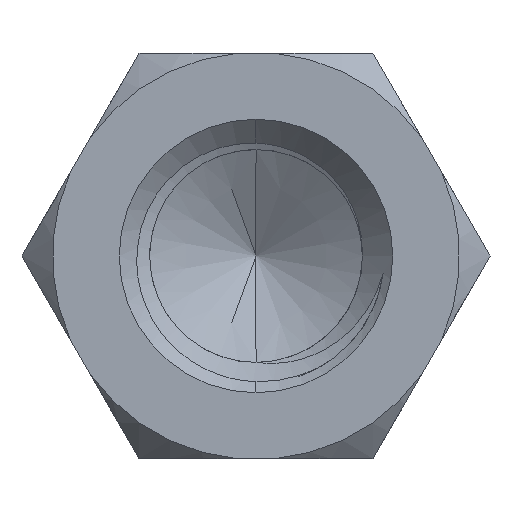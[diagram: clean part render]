
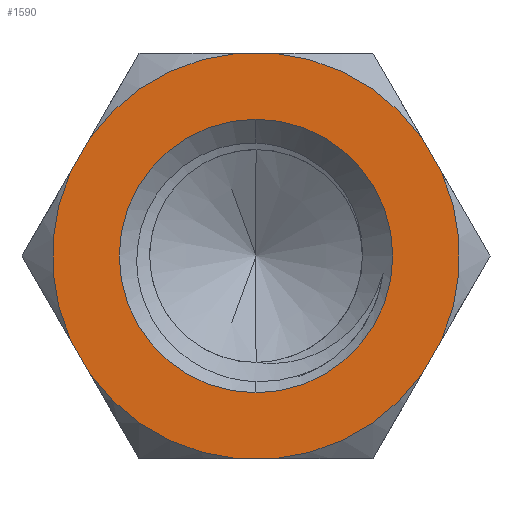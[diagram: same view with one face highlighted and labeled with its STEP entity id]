
A CAD part, front view. The second image highlights one B-rep face of the part: STEP entity #1590.
In plain terms, the highlighted planar face has unit normal (0, -1, 0).
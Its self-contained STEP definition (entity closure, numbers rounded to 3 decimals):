
#14 = CARTESIAN_POINT ( 'NONE',  ( 0., 0., 0. ) ) ;
#25 = ORIENTED_EDGE ( 'NONE', *, *, #1720, .F. ) ;
#66 = DIRECTION ( 'NONE',  ( 0., -1., 0. ) ) ;
#111 = VERTEX_POINT ( 'NONE', #2467 ) ;
#168 = CIRCLE ( 'NONE', #367, 4.019 ) ;
#190 = CIRCLE ( 'NONE', #2865, 4.019 ) ;
#215 = EDGE_CURVE ( 'NONE', #750, #2093, #909, .T. ) ;
#240 = CARTESIAN_POINT ( 'NONE',  ( -3.27, 0., 2.336 ) ) ;
#253 = DIRECTION ( 'NONE',  ( 0., 0., 1. ) ) ;
#271 = FACE_BOUND ( 'NONE', #2477, .T. ) ;
#284 = VECTOR ( 'NONE', #1561, 1000. ) ;
#336 = CARTESIAN_POINT ( 'NONE',  ( -3.658, 0., 1.664 ) ) ;
#351 = DIRECTION ( 'NONE',  ( 0.5, 0., 0.866 ) ) ;
#367 = AXIS2_PLACEMENT_3D ( 'NONE', #2305, #1887, #2550 ) ;
#384 = CIRCLE ( 'NONE', #1348, 4.019 ) ;
#462 = EDGE_CURVE ( 'NONE', #1557, #755, #1197, .T. ) ;
#507 = ORIENTED_EDGE ( 'NONE', *, *, #528, .T. ) ;
#528 = EDGE_CURVE ( 'NONE', #755, #1557, #2524, .T. ) ;
#547 = EDGE_CURVE ( 'NONE', #1631, #111, #2343, .T. ) ;
#584 = VERTEX_POINT ( 'NONE', #1166 ) ;
#605 = VECTOR ( 'NONE', #1368, 1000. ) ;
#608 = ORIENTED_EDGE ( 'NONE', *, *, #2392, .T. ) ;
#663 = LINE ( 'NONE', #2247, #1573 ) ;
#685 = CARTESIAN_POINT ( 'NONE',  ( 0., 0., 2.7 ) ) ;
#698 = CARTESIAN_POINT ( 'NONE',  ( 0., 0., 0. ) ) ;
#750 = VERTEX_POINT ( 'NONE', #336 ) ;
#755 = VERTEX_POINT ( 'NONE', #1256 ) ;
#756 = DIRECTION ( 'NONE',  ( 0., -1., 0. ) ) ;
#779 = EDGE_CURVE ( 'NONE', #750, #1191, #1497, .T. ) ;
#800 = CARTESIAN_POINT ( 'NONE',  ( 2.309, 0., 4. ) ) ;
#809 = EDGE_LOOP ( 'NONE', ( #1289, #608, #1326, #827, #1628, #2811, #2063, #2746, #2352, #2966, #25, #1615 ) ) ;
#827 = ORIENTED_EDGE ( 'NONE', *, *, #215, .T. ) ;
#855 = DIRECTION ( 'NONE',  ( -0.5, 0., -0.866 ) ) ;
#879 = CARTESIAN_POINT ( 'NONE',  ( 0., 0., 0. ) ) ;
#889 = VERTEX_POINT ( 'NONE', #893 ) ;
#893 = CARTESIAN_POINT ( 'NONE',  ( 3.658, 0., -1.664 ) ) ;
#909 = CIRCLE ( 'NONE', #2129, 4.019 ) ;
#922 = CARTESIAN_POINT ( 'NONE',  ( 3.27, 0., 2.336 ) ) ;
#959 = AXIS2_PLACEMENT_3D ( 'NONE', #2589, #1420, #2804 ) ;
#990 = DIRECTION ( 'NONE',  ( 0., 0., 1. ) ) ;
#994 = CARTESIAN_POINT ( 'NONE',  ( -3.27, 0., -2.336 ) ) ;
#1047 = EDGE_CURVE ( 'NONE', #1651, #111, #384, .T. ) ;
#1119 = DIRECTION ( 'NONE',  ( 0., -1., 0. ) ) ;
#1133 = DIRECTION ( 'NONE',  ( 0., 0., 1. ) ) ;
#1135 = CARTESIAN_POINT ( 'NONE',  ( -2.309, 0., -4. ) ) ;
#1166 = CARTESIAN_POINT ( 'NONE',  ( 3.27, 0., -2.336 ) ) ;
#1184 = CIRCLE ( 'NONE', #1575, 4.019 ) ;
#1191 = VERTEX_POINT ( 'NONE', #240 ) ;
#1197 = CIRCLE ( 'NONE', #959, 2.7 ) ;
#1210 = FACE_OUTER_BOUND ( 'NONE', #809, .T. ) ;
#1256 = CARTESIAN_POINT ( 'NONE',  ( 0., 0., -2.7 ) ) ;
#1264 = VERTEX_POINT ( 'NONE', #1751 ) ;
#1289 = ORIENTED_EDGE ( 'NONE', *, *, #2944, .F. ) ;
#1326 = ORIENTED_EDGE ( 'NONE', *, *, #779, .F. ) ;
#1348 = AXIS2_PLACEMENT_3D ( 'NONE', #1861, #756, #253 ) ;
#1368 = DIRECTION ( 'NONE',  ( 1., 0., 0. ) ) ;
#1420 = DIRECTION ( 'NONE',  ( 0., 1., 0. ) ) ;
#1455 = EDGE_CURVE ( 'NONE', #1651, #2093, #2298, .T. ) ;
#1456 = CARTESIAN_POINT ( 'NONE',  ( 0., 0., 0. ) ) ;
#1485 = VERTEX_POINT ( 'NONE', #922 ) ;
#1486 = VECTOR ( 'NONE', #2602, 1000. ) ;
#1497 = LINE ( 'NONE', #2433, #2567 ) ;
#1508 = CARTESIAN_POINT ( 'NONE',  ( 0.388, 0., 4. ) ) ;
#1557 = VERTEX_POINT ( 'NONE', #685 ) ;
#1561 = DIRECTION ( 'NONE',  ( -0.5, 0., 0.866 ) ) ;
#1573 = VECTOR ( 'NONE', #855, 1000. ) ;
#1575 = AXIS2_PLACEMENT_3D ( 'NONE', #1456, #66, #990 ) ;
#1590 = ADVANCED_FACE ( 'NONE', ( #271, #1210 ), #2788, .F. ) ;
#1615 = ORIENTED_EDGE ( 'NONE', *, *, #2529, .T. ) ;
#1628 = ORIENTED_EDGE ( 'NONE', *, *, #1455, .F. ) ;
#1631 = VERTEX_POINT ( 'NONE', #1908 ) ;
#1639 = VECTOR ( 'NONE', #1740, 1000. ) ;
#1651 = VERTEX_POINT ( 'NONE', #994 ) ;
#1660 = LINE ( 'NONE', #1826, #605 ) ;
#1661 = VERTEX_POINT ( 'NONE', #1508 ) ;
#1669 = CARTESIAN_POINT ( 'NONE',  ( 2.309, 0., -4. ) ) ;
#1720 = EDGE_CURVE ( 'NONE', #1485, #1264, #1938, .T. ) ;
#1740 = DIRECTION ( 'NONE',  ( 0.5, 0., -0.866 ) ) ;
#1751 = CARTESIAN_POINT ( 'NONE',  ( 3.658, 0., 1.664 ) ) ;
#1770 = DIRECTION ( 'NONE',  ( 0., 0., -1. ) ) ;
#1771 = DIRECTION ( 'NONE',  ( 0., -1., 0. ) ) ;
#1826 = CARTESIAN_POINT ( 'NONE',  ( -2.309, 0., 4. ) ) ;
#1830 = EDGE_CURVE ( 'NONE', #1631, #584, #2282, .T. ) ;
#1861 = CARTESIAN_POINT ( 'NONE',  ( 0., 0., 0. ) ) ;
#1887 = DIRECTION ( 'NONE',  ( 0., -1., 0. ) ) ;
#1908 = CARTESIAN_POINT ( 'NONE',  ( 0.388, 0., -4. ) ) ;
#1938 = LINE ( 'NONE', #800, #1639 ) ;
#1998 = CARTESIAN_POINT ( 'NONE',  ( -0.388, 0., 4. ) ) ;
#2037 = AXIS2_PLACEMENT_3D ( 'NONE', #698, #2328, #2127 ) ;
#2063 = ORIENTED_EDGE ( 'NONE', *, *, #547, .F. ) ;
#2071 = DIRECTION ( 'NONE',  ( 0., -1., 0. ) ) ;
#2093 = VERTEX_POINT ( 'NONE', #2292 ) ;
#2127 = DIRECTION ( 'NONE',  ( 0., 0., 1. ) ) ;
#2129 = AXIS2_PLACEMENT_3D ( 'NONE', #2559, #2071, #3009 ) ;
#2193 = ORIENTED_EDGE ( 'NONE', *, *, #462, .T. ) ;
#2219 = CARTESIAN_POINT ( 'NONE',  ( 0., 0., 0. ) ) ;
#2247 = CARTESIAN_POINT ( 'NONE',  ( 4.619, 0., 0. ) ) ;
#2282 = CIRCLE ( 'NONE', #3015, 4.019 ) ;
#2292 = CARTESIAN_POINT ( 'NONE',  ( -3.658, 0., -1.664 ) ) ;
#2298 = LINE ( 'NONE', #1135, #284 ) ;
#2305 = CARTESIAN_POINT ( 'NONE',  ( 0., 0., 0. ) ) ;
#2328 = DIRECTION ( 'NONE',  ( 0., 1., 0. ) ) ;
#2343 = LINE ( 'NONE', #1669, #1486 ) ;
#2352 = ORIENTED_EDGE ( 'NONE', *, *, #2791, .F. ) ;
#2392 = EDGE_CURVE ( 'NONE', #2714, #1191, #190, .T. ) ;
#2433 = CARTESIAN_POINT ( 'NONE',  ( -4.619, 0., 0. ) ) ;
#2467 = CARTESIAN_POINT ( 'NONE',  ( -0.388, 0., -4. ) ) ;
#2469 = AXIS2_PLACEMENT_3D ( 'NONE', #14, #2835, #2574 ) ;
#2477 = EDGE_LOOP ( 'NONE', ( #507, #2193 ) ) ;
#2524 = CIRCLE ( 'NONE', #2469, 2.7 ) ;
#2529 = EDGE_CURVE ( 'NONE', #1485, #1661, #1184, .T. ) ;
#2550 = DIRECTION ( 'NONE',  ( 0., 0., 1. ) ) ;
#2559 = CARTESIAN_POINT ( 'NONE',  ( 0., 0., 0. ) ) ;
#2567 = VECTOR ( 'NONE', #351, 1000. ) ;
#2574 = DIRECTION ( 'NONE',  ( 0., 0., 1. ) ) ;
#2589 = CARTESIAN_POINT ( 'NONE',  ( 0., 0., 0. ) ) ;
#2602 = DIRECTION ( 'NONE',  ( -1., 0., 0. ) ) ;
#2714 = VERTEX_POINT ( 'NONE', #1998 ) ;
#2746 = ORIENTED_EDGE ( 'NONE', *, *, #1830, .T. ) ;
#2788 = PLANE ( 'NONE',  #2037 ) ;
#2791 = EDGE_CURVE ( 'NONE', #889, #584, #663, .T. ) ;
#2804 = DIRECTION ( 'NONE',  ( 0., 0., 1. ) ) ;
#2811 = ORIENTED_EDGE ( 'NONE', *, *, #1047, .T. ) ;
#2835 = DIRECTION ( 'NONE',  ( 0., 1., 0. ) ) ;
#2865 = AXIS2_PLACEMENT_3D ( 'NONE', #879, #1771, #1133 ) ;
#2944 = EDGE_CURVE ( 'NONE', #2714, #1661, #1660, .T. ) ;
#2963 = EDGE_CURVE ( 'NONE', #889, #1264, #168, .T. ) ;
#2966 = ORIENTED_EDGE ( 'NONE', *, *, #2963, .T. ) ;
#3009 = DIRECTION ( 'NONE',  ( 0., 0., 1. ) ) ;
#3015 = AXIS2_PLACEMENT_3D ( 'NONE', #2219, #1119, #1770 ) ;
